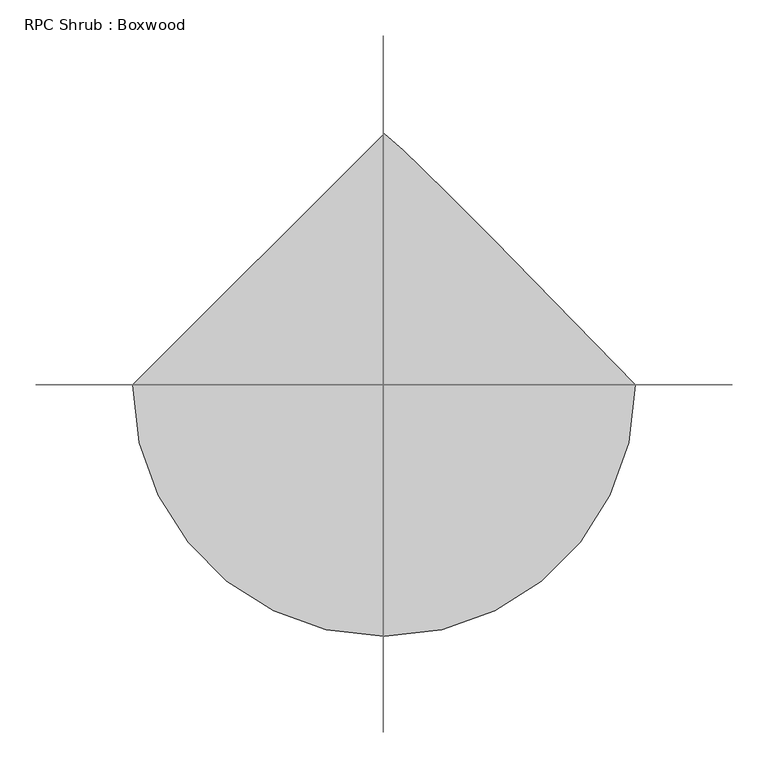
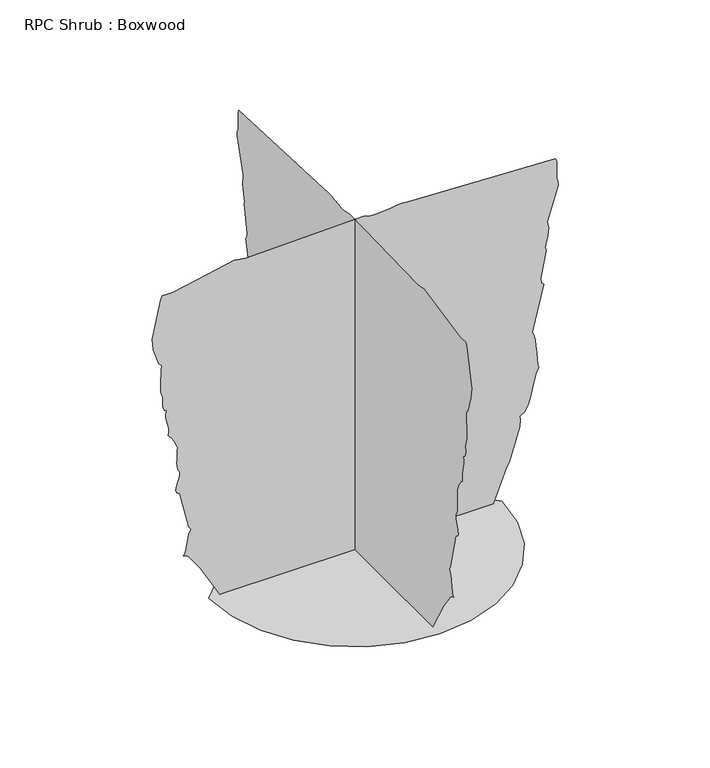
"""IFC4 building model written with IfcOpenShell, lengths in millimetres: geographic element geometry, RPC Shrub : Boxwood."""

import ifcopenshell
import ifcopenshell.guid

model = None  # the IFC model being written
_history = None  # IfcOwnerHistory: only IFC2X3 demands one
_inside = {}  # id of a spatial element -> (the spatial element, [elements in it])
_under = {}  # id of a project, library or spatial element -> (it, [spatial elements below it])
_declared = {}  # id of a project -> (the project, [libraries it declares])
_typed = {}  # id of a type object -> (the type object, [elements of that type])
_made_of = {}  # id of a material, layer set ... -> (it, [elements and type objects made of it])


def new_model(schema):
    """Start an empty IFC model of exactly this schema.

    Asked for "IFC4X3", IfcOpenShell would pick the latest addendum, in which some entities
    have other attributes; the version numbers below select the first issue.
    IFC2X3 requires an IfcOwnerHistory on every rooted entity: one is made here for all.
    """
    global model, _history
    if schema == "IFC4X3":
        model = ifcopenshell.file(schema_version=(4, 3, 0, 0))
    else:
        model = ifcopenshell.file(schema=schema)
    _inside.clear()
    _under.clear()
    _declared.clear()
    _typed.clear()
    _made_of.clear()
    _history = None
    if model.schema == "IFC2X3":
        org = make("IfcOrganization", Name="unknown")
        user = make(
            "IfcPersonAndOrganization",
            ThePerson=make("IfcPerson", FamilyName="unknown"),
            TheOrganization=org,
        )
        app = make(
            "IfcApplication",
            ApplicationDeveloper=org,
            Version="unknown",
            ApplicationFullName="unknown",
            ApplicationIdentifier="unknown",
        )
        _history = make(
            "IfcOwnerHistory",
            OwningUser=user,
            OwningApplication=app,
            ChangeAction="ADDED",
            CreationDate=0,
        )
    return model


def make(cls, **values):
    """One entity of the class cls with the attributes given. An attribute that is None is left unset."""
    return model.create_entity(
        cls, **{name: value for name, value in values.items() if value is not None}
    )


def rooted(cls, **values):
    """An entity with a GlobalId (a new one), such as an element, a storey or a relation."""
    return make(cls, GlobalId=ifcopenshell.guid.new(), OwnerHistory=_history, **values)


def si_unit(unit_type, name, prefix=None):
    """IfcSIUnit, for example si_unit("LENGTHUNIT", "METRE", prefix="MILLI")."""
    return make("IfcSIUnit", UnitType=unit_type, Prefix=prefix, Name=name)


def assignment(units):
    """IfcUnitAssignment: the units of a project."""
    return None if units is None else make("IfcUnitAssignment", Units=units)


def point(xyz):
    """IfcCartesianPoint."""
    return None if xyz is None else make("IfcCartesianPoint", Coordinates=xyz)


def direction(xyz):
    """IfcDirection."""
    return None if xyz is None else make("IfcDirection", DirectionRatios=xyz)


def frame(location, z_axis=None, x_axis=None):
    """IfcAxis2Placement3D, a coordinate frame: its origin and axes. An axis left out is left unset."""
    return make(
        "IfcAxis2Placement3D",
        Location=point(location),
        Axis=direction(z_axis),
        RefDirection=direction(x_axis),
    )


def origin():
    """The frame at (0, 0, 0) with its axes left unset."""
    return frame((0.0, 0.0, 0.0))


def place(relative_to, where):
    """IfcLocalPlacement: puts the frame where relative to a parent placement (None: the world)."""
    return make(
        "IfcLocalPlacement", PlacementRelTo=relative_to, RelativePlacement=where
    )


def context(
    kind, dimensions, precision=None, world=None, true_north=None, identifier=None
):
    """IfcGeometricRepresentationContext, for example the 3D "Model" context."""
    return make(
        "IfcGeometricRepresentationContext",
        ContextIdentifier=identifier,
        ContextType=kind,
        CoordinateSpaceDimension=dimensions,
        Precision=precision,
        WorldCoordinateSystem=world,
        TrueNorth=true_north,
    )


def project(units=None, contexts=None):
    """IfcProject with its units and contexts."""
    return rooted(
        "IfcProject",
        Name="project",
        RepresentationContexts=contexts,
        UnitsInContext=assignment(units),
    )


def spatial(cls, under=None, at=None, **own):
    """A site, building, storey or space (cls), placed at a placement, below another one or the project."""
    s = rooted(cls, ObjectPlacement=at, **own)
    if under is not None:
        _under.setdefault(under.id(), (under, []))[1].append(s)
    return s


def point_list(points):
    """IfcCartesianPointList2D or 3D."""
    cls = (
        "IfcCartesianPointList2D" if len(points[0]) == 2 else "IfcCartesianPointList3D"
    )
    return make(cls, CoordList=points)


def triangles(points, corners, closed=None, point_numbers=None):
    """IfcTriangulatedFaceSet: each triangle names its three corners, points numbered from 1."""
    return make(
        "IfcTriangulatedFaceSet",
        Coordinates=point_list(points),
        Closed=closed,
        CoordIndex=corners,
        PnIndex=point_numbers,
    )


def shape(context_of_items, identifier, shape_type, items):
    """IfcShapeRepresentation: the items that make up one representation, for example the "Body"."""
    return make(
        "IfcShapeRepresentation",
        ContextOfItems=context_of_items,
        RepresentationIdentifier=identifier,
        RepresentationType=shape_type,
        Items=items,
    )


def source(mapping_origin, context_of_items, identifier, shape_type, items):
    """IfcRepresentationMap: a shape defined once, which mapped items show again and again."""
    return make(
        "IfcRepresentationMap",
        MappingOrigin=mapping_origin,
        MappedRepresentation=shape(context_of_items, identifier, shape_type, items),
    )


def transform(
    local_origin,
    x_axis=None,
    y_axis=None,
    z_axis=None,
    scale=None,
    scale2=None,
    scale3=None,
    uniform=True,
):
    """IfcCartesianTransformationOperator3D, or its non-uniform kind. x_axis, y_axis, z_axis: its Axis1, 2, 3."""
    if uniform:
        return make(
            "IfcCartesianTransformationOperator3D",
            Axis1=direction(x_axis),
            Axis2=direction(y_axis),
            LocalOrigin=point(local_origin),
            Scale=scale,
            Axis3=direction(z_axis),
        )
    return make(
        "IfcCartesianTransformationOperator3DnonUniform",
        Axis1=direction(x_axis),
        Axis2=direction(y_axis),
        LocalOrigin=point(local_origin),
        Scale=scale,
        Axis3=direction(z_axis),
        Scale2=scale2,
        Scale3=scale3,
    )


def mapped(mapping_source, mapping_target):
    """IfcMappedItem: shows the shape of a source again, moved by a transform."""
    return make(
        "IfcMappedItem", MappingSource=mapping_source, MappingTarget=mapping_target
    )


def made_of(thing, what):
    """Note that an element or type object is made of a material, layer set ...; save() writes the relation."""
    if what is not None:
        _made_of.setdefault(what.id(), (what, []))[1].append(thing)
    return thing


def element(
    cls,
    number,
    at=None,
    inside=None,
    cuts=None,
    type_object=None,
    material=None,
    context=None,
    identifier="Body",
    shape_type=None,
    held_by="IfcProductDefinitionShape",
    body=None,
    shapes=None,
    **own,
):
    """One element of the class cls, such as IfcWall. Its Tag is "e" and its number.

    at: its placement. inside: the storey or other place that contains it. cuts: it is an
    opening in that element (IfcRelVoidsElement). A single representation is given by context,
    identifier, shape_type and body (its items); several are given by shapes. held_by: the class
    of the entity that holds the representations. save() writes the other relations.
    """
    e = rooted(cls, Tag="e%d" % number, ObjectPlacement=at, **own)
    if body is not None:
        shapes = [shape(context, identifier, shape_type, body)]
    if shapes is not None:
        e.Representation = make(held_by, Representations=shapes)
    if inside is not None:
        _inside.setdefault(inside.id(), (inside, []))[1].append(e)
    if cuts is not None:
        rooted(
            "IfcRelVoidsElement", RelatingBuildingElement=cuts, RelatedOpeningElement=e
        )
    if type_object is not None:
        _typed.setdefault(type_object.id(), (type_object, []))[1].append(e)
    return made_of(e, material)


def aggregate(whole, parts):
    """IfcRelAggregates: a whole, such as a stair, and the parts it consists of."""
    return rooted("IfcRelAggregates", RelatingObject=whole, RelatedObjects=parts)


def save(model, path):
    """Write the relations noted so far, then the file.

    IfcRelAggregates (storeys below a building ...), IfcRelContainedInSpatialStructure (elements
    in a storey), IfcRelDefinesByType, IfcRelAssociatesMaterial and IfcRelDeclares: one each for
    every whole, place, type object, material and project.
    """
    for whole, parts in _under.values():
        aggregate(whole, parts)
    for where, things in _inside.values():
        rooted(
            "IfcRelContainedInSpatialStructure",
            RelatedElements=things,
            RelatingStructure=where,
        )
    for kind, things in _typed.values():
        rooted("IfcRelDefinesByType", RelatedObjects=things, RelatingType=kind)
    for what, things in _made_of.values():
        rooted("IfcRelAssociatesMaterial", RelatedObjects=things, RelatingMaterial=what)
    for by, libraries in _declared.values():
        rooted("IfcRelDeclares", RelatingContext=by, RelatedDefinitions=libraries)
    model.write(path)


def rpc_shrub_boxwood_31a8b93a(model_context):
    return source(origin(), model_context, "Body", "Tessellation", [
        triangles([(-350.7919238, 0.0, 0.0), (-341.5167269, -80.3781425, 0.0), (-315.1055846, -154.1926595, 0.0), (-273.6723033, -219.3286546, 0.0), (-219.3286546, -273.6723033, 0.0), (-154.1926595, -315.1055846, 0.0), (-80.3781425, -341.5167269, 0.0), (1.53e-05, -350.7919238, 0.0), (80.3781425, -341.5167269, 0.0), (154.1926595, -315.1055846, 0.0), (219.3286546, -273.6723033, 0.0), (273.6723033, -219.3286546, 0.0), (315.1055846, -154.1926595, 0.0), (341.5167269, -80.3781425, 0.0), (350.7919238, 3.07e-05, 0.0), (236.7920327, 116.9354496, 0.0), (152.278414, 203.0298493, 0.0), (92.3366331, 263.4226928, 0.0), (52.0522189, 303.2555267, 0.0), (26.5109567, 327.6680809, 0.0), (10.7982689, 341.7996311, 0.0), (-4.6e-05, 350.7919238, 0.0), (-324.215748, 3.84e-05, 1.2173179), (-370.8406274, 3.35e-05, 83.4658628), (-399.9261703, 3.11e-05, 123.0734289), (-412.2293801, 3.08e-05, 129.051625), (-408.9211155, 3.06e-05, 131.6657641), (-406.1157635, 3.01e-05, 140.3154633), (-403.6090124, 2.93e-05, 152.586453), (-401.2018192, 2.85e-05, 166.0644457), (-398.6976843, 2.78e-05, 178.3356989), (-395.8897161, 2.73e-05, 186.9853889), (-392.5840676, 2.72e-05, 189.5995281), (-398.4933726, 2.67e-05, 197.4594953), (-420.6166225, 2.13e-05, 288.7310862), (-428.0425501, 2.09e-05, 294.8263719), (-430.4602441, 2.06e-05, 300.2222816), (-429.3784424, 2.01e-05, 307.9153985), (-426.2954184, 1.96e-05, 317.0255619), (-422.7147503, 1.9e-05, 326.6727201), (-420.1294066, 1.84e-05, 335.9714985), (-420.0429657, 1.8e-05, 344.0470593), (-423.9458525, 1.76e-05, 350.0113755), (-425.7846574, 1.73e-05, 354.1133054), (-426.7642851, 1.69e-05, 361.0677501), (-427.0864675, 1.64e-05, 370.0050679), (-426.9502839, 1.58e-05, 380.0529648), (-426.549509, 1.52e-05, 390.3444878), (-426.0858745, 1.46e-05, 400.0073791), (-425.7532276, 1.41e-05, 408.1745768), (-426.4709164, 1.4e-05, 410.2203094), (-428.5533111, 1.37e-05, 415.1395223), (-431.6808455, 1.33e-05, 421.8555731), (-435.5339533, 1.29e-05, 429.2946176), (-439.7930683, 1.24e-05, 436.3773974), (-444.1438565, 1.21e-05, 442.0247635), (-448.2641356, 1.19e-05, 445.1627987), (-446.5798634, 1.13e-05, 454.7627941), (-447.3237496, 1.08e-05, 464.614264), (-449.4533072, 1.02e-05, 474.4814306), (-451.9312446, 9.6e-06, 484.1285889), (-453.7228867, 9.1e-06, 493.3199973), (-453.7857462, 8.6e-06, 501.8172257), (-451.0825682, 8.1e-06, 509.3872215), (-457.0521166, 7.8e-06, 513.5415828), (-460.0617803, 7.5e-06, 518.8850793), (-461.0545249, 7.1e-06, 525.1768464), (-460.9785848, 6.8e-06, 532.1810337), (-460.7742731, 6.3e-06, 539.6645885), (-461.3898242, 5.8e-06, 547.3865009), (-463.7682037, 5.4e-06, 555.1136819), (-465.4157776, 5e-06, 561.3556337), (-466.1335027, 4.5e-06, 570.2405565), (-466.1439672, 3.8e-06, 581.0454929), (-465.6829488, 3.1e-06, 593.0448332), (-464.9731084, 2.4e-06, 605.510424), (-464.2449188, 1.7e-06, 617.7193445), (-463.7263095, 1e-06, 628.9433687), (-470.1830375, 6e-07, 635.4603401), (-483.6125957, -1.9e-06, 676.427389), (-486.0826484, -3.5e-06, 702.6813824), (-466.3063846, -9e-06, 796.8138634), (-462.2385006, -9.5e-06, 805.2351517), (-438.2030854, -9.5e-06, 803.62166), (-381.0850239, -1.02e-05, 816.2312828), (-289.6819184, -1.13e-05, 834.6638786), (-262.1915724, -1.1e-05, 829.9909081), (19.7347647, -1.14e-05, 837.0396057), (36.4753217, -1.12e-05, 832.8983614), (52.296608, -1.11e-05, 831.9030006), (67.462788, -1.12e-05, 832.9979193), (82.2389482, -1.13e-05, 835.1195921), (96.8883266, -1.14e-05, 837.2072554), (111.6762684, -1.15e-05, 838.2), (126.8665476, -1.14e-05, 837.0396057), (479.274888, -1.05e-05, 822.2375296), (482.0540425, -1.02e-05, 815.387875), (482.1352512, -7.6e-06, 772.1760504), (484.9144057, -7.1e-06, 765.3237797), (485.7264201, -6.5e-06, 753.5574921), (460.142989, -1.5e-06, 669.9522755), (461.5653222, -8e-07, 658.6313822), (463.0243175, -4e-07, 652.6251354), (462.3327899, 0.0, 644.1305231), (460.3499167, 7e-07, 634.1428333), (457.937455, 1.3e-06, 623.6548834), (455.9546182, 1.9e-06, 613.6645775), (455.2630906, 2.4e-06, 605.1699288), (456.7194697, 2.7e-06, 599.1636821), (444.0233697, 6.7e-06, 532.4063107), (445.7521523, 7.5e-06, 520.3676559), (451.4335642, 7.8e-06, 514.408572), (423.5503098, 1.45e-05, 402.0793093), (427.5579503, 1.49e-05, 394.7738686), (430.3816515, 1.57e-05, 381.6796097), (432.4011867, 1.67e-05, 365.0203794), (433.985901, 1.78e-05, 347.0279094), (435.512988, 1.88e-05, 329.9207414), (437.3570615, 1.96e-05, 315.9306796), (439.8925899, 2.01e-05, 307.2814982), (433.6244405, 2.08e-05, 296.3508428), (428.6607173, 2.18e-05, 279.4270756), (424.1580125, 2.3e-05, 259.2303796), (419.2676497, 2.42e-05, 238.4762867), (413.1461483, 2.54e-05, 219.8847435), (404.9449047, 2.62e-05, 206.1736254), (393.8151698, 2.66e-05, 200.0618437), (395.5911152, 2.71e-05, 190.3960819), (393.6789499, 2.81e-05, 173.5480006), (368.6246289, 3.29e-05, 92.4128639), (362.8777413, 3.35e-05, 83.2136162), (329.8526496, 3.84e-05, 1.0798268), (-1.4096743, -322.8065317, 1.2173152), (-1.4096743, -369.4314111, 83.4658628), (-1.4096743, -398.5143379, 123.0734289), (-1.4096743, -410.8201638, 129.051625), (-1.4096743, -407.5118992, 131.6657641), (-1.4096743, -404.7065472, 140.3154633), (-1.4096743, -402.1997961, 152.586453), (-1.4096743, -399.7926029, 166.0647001), (-1.4096743, -397.2858519, 178.3356989), (-1.4096743, -394.4804998, 186.9853889), (-1.4096743, -391.1722352, 189.5995281), (-1.4096743, -397.0841563, 197.4594953), (-1.4096743, -419.2074062, 288.7310862), (-1.4096743, -426.6333338, 294.8263719), (-1.4096743, -429.0483753, 300.2222816), (-1.4096743, -427.9665736, 307.9153985), (-1.4096743, -424.886202, 317.0255619), (-1.4096743, -421.3054976, 326.6727201), (-1.4096743, -418.7201903, 335.9714985), (-1.4096743, -418.6311333, 344.0470593), (-1.4096743, -422.5366362, 350.0113755), (-1.4096743, -424.3727886, 354.1133054), (-1.4096743, -425.3550688, 361.0677501), (-1.4096743, -425.6772511, 370.0050679), (-1.4096743, -425.5410313, 380.0529648), (-1.4096743, -425.1402926, 390.3444878), (-1.4096743, -424.6766582, 400.0073791), (-1.4096743, -424.343975, 408.1745768), (-1.4096743, -425.0617001, 410.2203094), (-1.4096743, -427.1440948, 415.1395223), (-1.4096743, -430.2716291, 421.8555731), (-1.4096743, -434.1221209, 429.2946176), (-1.4096743, -438.383852, 436.3773974), (-1.4096743, -442.7346039, 442.0247635), (-1.4096743, -446.8522668, 445.1627987), (-1.4096743, -445.170647, 454.7627941), (-1.4096743, -445.9145333, 464.614264), (-1.4096743, -448.0440908, 474.4814306), (-1.4096743, -450.5220283, 484.1285889), (-1.4096743, -452.3110542, 493.3199973), (-1.4096743, -452.3765299, 501.8198782), (-1.4096743, -449.6733519, 509.3872215), (-1.4096743, -455.6429003, 513.5415828), (-1.4096743, -458.652564, 518.8850793), (-1.4096743, -459.6453086, 525.1768464), (-1.4096743, -459.5693321, 532.1810337), (-1.4096743, -459.3650205, 539.6645885), (-1.4096743, -459.9805716, 547.3865009), (-1.4096743, -462.3589874, 555.1136819), (-1.4096743, -464.0065613, 561.3556337), (-1.4096743, -464.7216702, 570.2405565), (-1.4096743, -464.7347508, 581.0454929), (-1.4096743, -464.2711164, 593.0448332), (-1.4096743, -463.561276, 605.510424), (-1.4096743, -462.8330864, 617.7193445), (-1.4096743, -462.3144407, 628.9433687), (-1.4096743, -468.7738212, 635.4603401), (-1.4096743, -482.2033793, 676.427389), (-1.4096743, -484.6734321, 702.6813824), (-1.4096743, -464.8971683, 796.8138634), (-1.4096743, -460.829248, 805.2351517), (-1.4096743, -436.7938691, 803.62166), (-1.4096743, -379.6757712, 816.2312828), (-1.4096743, -288.2727021, 834.6638786), (-1.4096743, -260.7818293, 829.9909081), (-1.4096743, 21.1445124, 837.0396057), (-1.4096743, 37.884806, 832.8983614), (-1.4096743, 53.7063557, 831.9030006), (-1.4096743, 68.8725357, 832.9979193), (-1.4096743, 83.6486914, 835.1195921), (-1.4096743, 98.2980698, 837.2072554), (-1.4096743, 113.0860116, 838.2), (-1.4096743, 128.2762908, 837.0396057), (-1.4096743, 480.6841407, 822.2375296), (-1.4096743, 483.4632952, 815.387875), (-1.4096743, 483.5444675, 772.1760504), (-1.4096743, 486.323622, 765.3237797), (-1.4096743, 487.1356364, 753.5574921), (-1.4096743, 461.5522053, 669.9522755), (-1.4096743, 462.9771546, 658.6339983), (-1.4096743, 464.4335338, 652.6251354), (-1.4096743, 463.7420062, 644.1305231), (-1.4096743, 461.7591331, 634.1428333), (-1.4096743, 459.3467076, 623.6548834), (-1.4096743, 457.3664506, 613.6645775), (-1.4096743, 456.6723069, 605.1699288), (-1.4096743, 458.1313022, 599.1636821), (-1.4096743, 445.4352021, 532.4063107), (-1.4096743, 447.1639847, 520.3676559), (-1.4096743, 452.8453966, 514.408572), (-1.4096743, 424.9595261, 402.0793093), (-1.4096743, 428.9672029, 394.7738686), (-1.4096743, 431.7934839, 381.6796097), (-1.4096743, 433.810403, 365.0203794), (-1.4096743, 435.3951173, 347.0279094), (-1.4096743, 436.9222406, 329.9207414), (-1.4096743, 438.7662778, 315.9306796), (-1.4096743, 441.3018062, 307.2814982), (-1.4096743, 435.0336568, 296.3508428), (-1.4096743, 430.0699336, 279.4270756), (-1.4096743, 425.5672288, 259.2303796), (-1.4096743, 420.676866, 238.4762867), (-1.4096743, 414.5554009, 219.8847435), (-1.4096743, 406.354121, 206.1736254), (-1.4096743, 395.2243861, 200.0618437), (-1.4096743, 397.0003315, 190.3960819), (-1.4096743, 395.0882026, 173.5482549), (-1.4096743, 370.0338816, 92.4128639), (-1.4096743, 364.2869576, 83.2136162), (-1.4096743, 331.264482, 1.0798217)], [[21, 22, 1], [20, 21, 1], [19, 20, 1], [18, 19, 1], [17, 18, 1], [17, 1, 2], [17, 2, 3], [17, 3, 4], [16, 17, 4], [16, 4, 5], [16, 5, 6], [16, 6, 7], [16, 7, 8], [16, 8, 9], [16, 9, 10], [16, 10, 11], [16, 11, 12], [15, 16, 12], [14, 15, 12], [13, 14, 12], [25, 26, 27], [131, 132, 23], [82, 83, 84], [95, 96, 97], [95, 97, 98], [25, 27, 28], [56, 57, 58], [131, 23, 24], [130, 131, 24], [129, 130, 24], [128, 129, 24], [127, 128, 24], [95, 98, 99], [95, 99, 100], [95, 100, 101], [95, 101, 102], [127, 24, 25], [127, 25, 28], [127, 28, 29], [127, 29, 30], [127, 30, 31], [127, 31, 32], [127, 32, 33], [127, 33, 34], [127, 34, 35], [111, 112, 113], [95, 102, 103], [95, 103, 104], [95, 104, 105], [95, 105, 106], [95, 106, 107], [95, 107, 108], [119, 120, 121], [81, 82, 84], [95, 108, 109], [95, 109, 110], [94, 95, 110], [93, 94, 110], [92, 93, 110], [91, 92, 110], [91, 110, 111], [90, 91, 111], [90, 111, 113], [89, 90, 113], [126, 127, 35], [125, 126, 35], [124, 125, 35], [123, 124, 35], [122, 123, 35], [121, 122, 35], [119, 121, 35], [118, 119, 35], [117, 118, 35], [116, 117, 35], [115, 116, 35], [114, 115, 35], [113, 114, 35], [89, 113, 35], [88, 89, 35], [87, 88, 35], [87, 35, 36], [87, 36, 37], [81, 84, 85], [80, 81, 85], [79, 80, 85], [78, 79, 85], [78, 85, 86], [78, 86, 87], [77, 78, 87], [76, 77, 87], [75, 76, 87], [74, 75, 87], [73, 74, 87], [72, 73, 87], [71, 72, 87], [70, 71, 87], [69, 70, 87], [68, 69, 87], [67, 68, 87], [66, 67, 87], [65, 66, 87], [64, 65, 87], [55, 56, 58], [62, 63, 64], [62, 64, 87], [61, 62, 87], [60, 61, 87], [59, 60, 87], [58, 59, 87], [55, 58, 87], [54, 55, 87], [53, 54, 87], [52, 53, 87], [51, 52, 87], [50, 51, 87], [49, 50, 87], [48, 49, 87], [47, 48, 87], [46, 47, 87], [45, 46, 87], [44, 45, 87], [43, 44, 87], [42, 43, 87], [41, 42, 87], [37, 38, 39], [37, 39, 40], [87, 37, 40], [41, 87, 40], [135, 136, 137], [241, 242, 133], [192, 193, 194], [205, 206, 207], [205, 207, 208], [135, 137, 138], [166, 167, 168], [241, 133, 134], [240, 241, 134], [239, 240, 134], [238, 239, 134], [237, 238, 134], [205, 208, 209], [205, 209, 210], [205, 210, 211], [205, 211, 212], [237, 134, 135], [237, 135, 138], [237, 138, 139], [237, 139, 140], [237, 140, 141], [237, 141, 142], [237, 142, 143], [237, 143, 144], [237, 144, 145], [221, 222, 223], [205, 212, 213], [205, 213, 214], [205, 214, 215], [205, 215, 216], [205, 216, 217], [205, 217, 218], [229, 230, 231], [191, 192, 194], [205, 218, 219], [205, 219, 220], [204, 205, 220], [203, 204, 220], [202, 203, 220], [201, 202, 220], [201, 220, 221], [200, 201, 221], [200, 221, 223], [199, 200, 223], [236, 237, 145], [235, 236, 145], [234, 235, 145], [233, 234, 145], [232, 233, 145], [231, 232, 145], [229, 231, 145], [228, 229, 145], [227, 228, 145], [226, 227, 145], [225, 226, 145], [224, 225, 145], [223, 224, 145], [199, 223, 145], [198, 199, 145], [197, 198, 145], [197, 145, 146], [197, 146, 147], [191, 194, 195], [190, 191, 195], [189, 190, 195], [188, 189, 195], [188, 195, 196], [188, 196, 197], [187, 188, 197], [186, 187, 197], [185, 186, 197], [184, 185, 197], [183, 184, 197], [182, 183, 197], [181, 182, 197], [180, 181, 197], [179, 180, 197], [178, 179, 197], [177, 178, 197], [176, 177, 197], [175, 176, 197], [174, 175, 197], [165, 166, 168], [172, 173, 174], [172, 174, 197], [171, 172, 197], [170, 171, 197], [169, 170, 197], [168, 169, 197], [165, 168, 197], [164, 165, 197], [163, 164, 197], [162, 163, 197], [161, 162, 197], [160, 161, 197], [159, 160, 197], [158, 159, 197], [157, 158, 197], [156, 157, 197], [155, 156, 197], [154, 155, 197], [153, 154, 197], [152, 153, 197], [151, 152, 197], [147, 148, 149], [147, 149, 150], [197, 147, 150], [151, 197, 150]], closed=False),
    ])


if __name__ == "__main__":
    model = new_model("IFC4")
    model_context = context("Model", 3, world=origin())
    ifc_project = project(units=[si_unit("LENGTHUNIT", "METRE", prefix="MILLI")], contexts=[model_context])
    site = spatial("IfcSite", under=ifc_project)
    building = spatial("IfcBuilding", under=site)
    placement = place(None, origin())
    rpc_shrub_boxwood_shape = rpc_shrub_boxwood_31a8b93a(model_context)
    element("IfcGeographicElement", 1, ObjectType="RPC Shrub : Boxwood", at=placement, inside=building, context=model_context, shape_type="MappedRepresentation", body=[
        mapped(rpc_shrub_boxwood_shape, transform((0.0, 0.0, 0.0), x_axis=(1.0, 0.0, 0.0), y_axis=(0.0, 1.0, 0.0), z_axis=(0.0, 0.0, 1.0))),
    ])
    save(model, "model.ifc")
